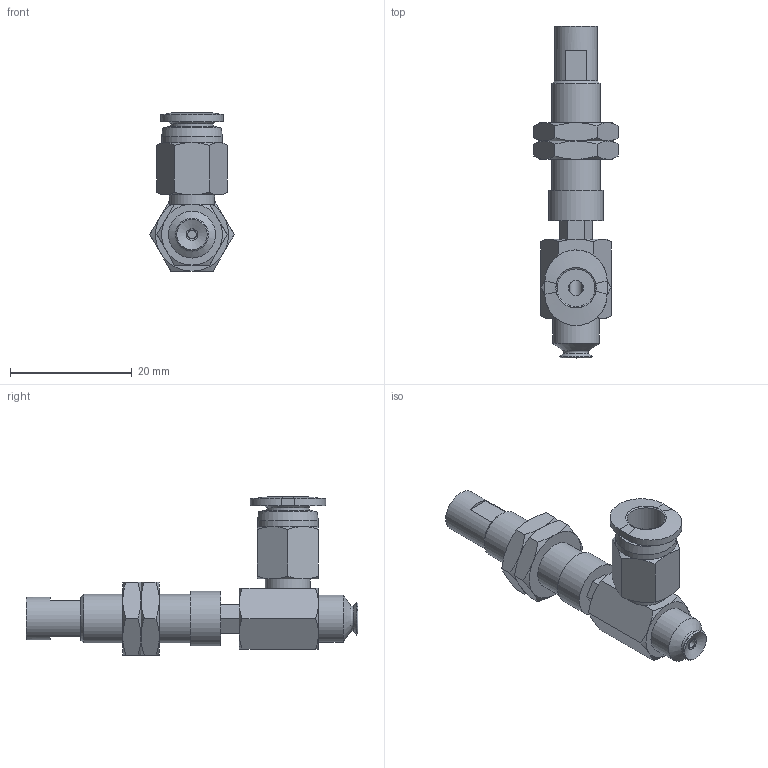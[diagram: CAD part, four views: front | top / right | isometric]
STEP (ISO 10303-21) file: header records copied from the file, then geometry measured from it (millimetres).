
FILE_DESCRIPTION(('STEP AP203'),'1');
FILE_NAME('-O.stp','2025-04-10T02:42:53',(' '),(' '),'Spatial InterOp 3D',' ',' ');
FILE_SCHEMA(('CONFIG_CONTROL_DESIGN'));
Length unit declared in the file: millimetre
Products named in the file (7): BNABPFYH-5A-3-※-O; CONNECTOR-H-5A-3; Nut-5A-3-h; NAPFTH-5A-3-FBODY; NAPFTH-5A-3-MBODY; BPFG-5A-※; PC-C_06-M5
Assembly tree (7 placements, depth 2):
  BNABPFYH-5A-3-※-O
    CONNECTOR-H-5A-3
    Nut-5A-3-h  x2
    NAPFTH-5A-3-FBODY
    NAPFTH-5A-3-MBODY
    BPFG-5A-※
    PC-C_06-M5
Bounding box: 13.86 x 54.5 x 25.98 mm (x, y, z)
Volume: 3255.2 mm3; surface area: 5019 mm2
Topology: 6 solids, 9 shells, 189 faces, 402 edges, 244 vertices
Faces by surface type: plane 79, cone 67, cylinder 24, torus 11, bspline 5, revolution 3
Full cylindrical faces by diameter (mm): 1.4 x1, 2 x1, 4 x4, 4.134 x2, 5 x2, 6 x2, 7 x2, 7.188 x2, 7.4 x1, 7.7 x1, 8 x1, 8.2 x1, 9 x1, 10 x1
Entity records: 4959 total; most frequent: CARTESIAN_POINT 1398, DIRECTION 659, ORIENTED_EDGE 584, EDGE_CURVE 294, AXIS2_PLACEMENT_3D 281, EDGE_LOOP 242, VERTEX_POINT 206, FACE_OUTER_BOUND 139
